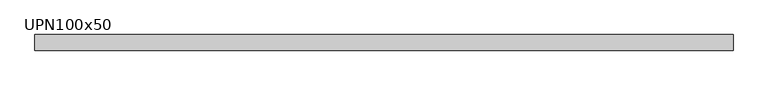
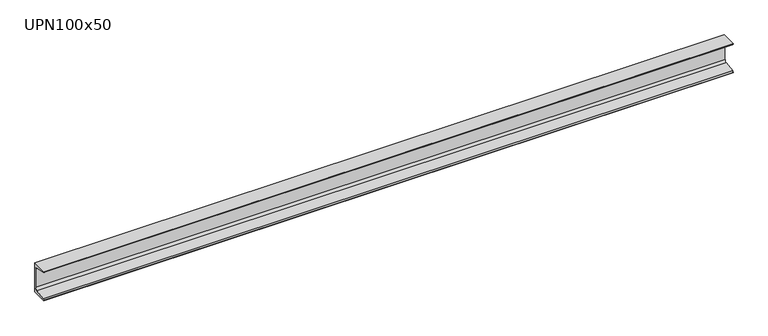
"""IFC4 building model written with IfcOpenShell, lengths in millimetres: beam geometry, M_MC Shapes : UPN100x50."""

from ifc_helpers import new_model, si_unit, point, frame, frame_2d, origin, place, context, project, spatial, polyline, circle_curve, trimmed, segment, composite_curve, outline, extrude, source, transform, mapped, element, save


def upn100x50_04313b9f(model_context):
    return source(origin(), model_context, "Body", "SweptSolid", [
        extrude(outline(composite_curve([segment(polyline([(10.9, 50.0), (10.9, -50.0), (-39.1, -50.0), (-39.1, -49.0253247)]), True, "CONTINUOUS"), segment(trimmed(circle_curve(frame_2d((-35.15, -49.0253247)), 3.95), [point((-39.1, -49.0253247))], [point((-35.7993773, -45.1290689))], False, "CARTESIAN"), True, "CONTINUOUS"), segment(polyline([(-35.7993773, -45.1290689), (-0.2512455, -39.2043685)]), True, "CONTINUOUS"), segment(trimmed(circle_curve(frame_2d((-1.55, -31.4118569)), 7.9), [point((-0.2512455, -39.2043685))], [point((6.35, -31.4118569))], True, "CARTESIAN"), True, "CONTINUOUS"), segment(polyline([(6.35, -31.4118569), (6.35, 31.4118569)]), True, "CONTINUOUS"), segment(trimmed(circle_curve(frame_2d((-1.55, 31.4118569)), 7.9), [point((6.35, 31.4118569))], [point((-0.2512455, 39.2043685))], True, "CARTESIAN"), True, "CONTINUOUS"), segment(polyline([(-0.2512455, 39.2043685), (-35.7993773, 45.1290689)]), True, "CONTINUOUS"), segment(trimmed(circle_curve(frame_2d((-35.15, 49.0253247)), 3.95), [point((-35.7993773, 45.1290689))], [point((-39.1, 49.0253247))], False, "CARTESIAN"), True, "CONTINUOUS"), segment(polyline([(-39.1, 49.0253247), (-39.1, 50.0), (10.9, 50.0)]), True, "CONTINUOUS")], self_intersect=False)), frame((-1085.45, 0.0, 0.0), z_axis=(1.0, 0.0, 0.0), x_axis=(0.0, 1.0, 0.0)), (0.0, 0.0, 1.0), 2231.3),
    ])


if __name__ == "__main__":
    model = new_model("IFC4")
    model_context = context("Model", 3, world=origin())
    ifc_project = project(units=[si_unit("LENGTHUNIT", "METRE", prefix="MILLI")], contexts=[model_context])
    site = spatial("IfcSite", under=ifc_project)
    building = spatial("IfcBuilding", under=site)
    placement = place(None, origin())
    upn100x50_shape = upn100x50_04313b9f(model_context)
    element("IfcBeam", 1, ObjectType="M_MC Shapes : UPN100x50", at=placement, inside=building, context=model_context, shape_type="MappedRepresentation", body=[
        mapped(upn100x50_shape, transform((0.0, 0.0, 0.0), x_axis=(1.0, 0.0, 0.0), y_axis=(0.0, 1.0, 0.0), z_axis=(0.0, 0.0, 1.0))),
    ])
    save(model, "model.ifc")
